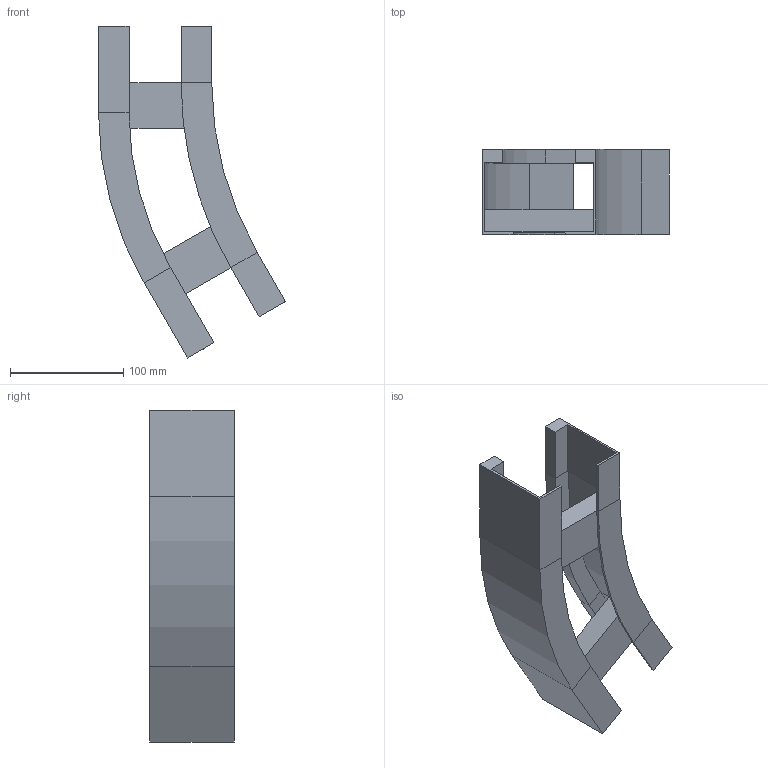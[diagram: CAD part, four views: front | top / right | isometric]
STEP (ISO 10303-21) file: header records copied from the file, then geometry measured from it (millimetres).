
FILE_DESCRIPTION (( 'STEP AP214' ), '1' );
FILE_NAME ('B2_12B3C100.step', '2025-02-21T15:11:03', ( '' ), ( '' ), 'SwSTEP 2.0', 'SolidWorks 2023', '' );
FILE_SCHEMA (( 'AUTOMOTIVE_DESIGN' ));
Length unit declared in the file: millimetre
Products named in the file (4): B2_12B3C100; TRAVERSINO_100; B2_LONGH.ESTERNO 30°_H75_R300+100; B2_LONGH.INTERNO 30°_H75_R300
Assembly tree (4 placements, depth 2):
  B2_12B3C100
    B2_LONGH.INTERNO 30°_H75_R300
    B2_LONGH.ESTERNO 30°_H75_R300+100
    TRAVERSINO_100  x2
Bounding box: 165.19 x 75 x 293.3 mm (x, y, z)
Volume: 378077.6 mm3; surface area: 162028.8 mm2
Topology: 4 solids, 4 shells, 64 faces, 136 edges, 80 vertices
Faces by surface type: plane 56, cylinder 8
Entity records: 1637 total; most frequent: DIRECTION 270, CARTESIAN_POINT 261, ORIENTED_EDGE 248, EDGE_CURVE 124, VECTOR 108, LINE 108, AXIS2_PLACEMENT_3D 81, VERTEX_POINT 72
